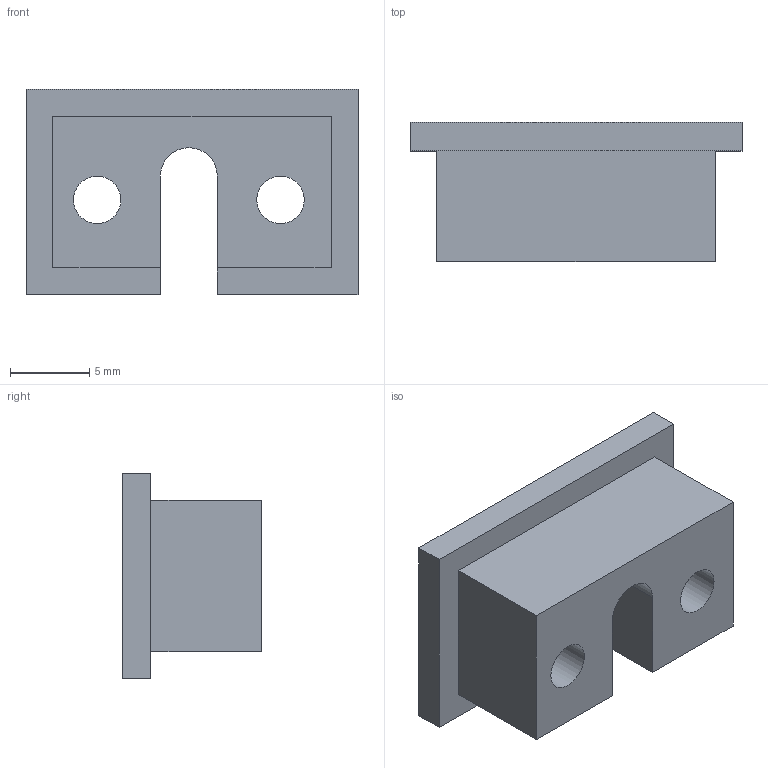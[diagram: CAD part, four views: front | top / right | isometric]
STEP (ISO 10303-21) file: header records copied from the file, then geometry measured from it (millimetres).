
FILE_DESCRIPTION(('Open CASCADE Model'),'2;1');
FILE_NAME('rear-cable-plug','2026-10-21T18:12:46',('Author'),( 'Open CASCADE'),'Open CASCADE STEP processor 8.0','build123d', 'Unknown');
FILE_SCHEMA(('AUTOMOTIVE_DESIGN { 1 0 10303 214 1 1 1 1 }'));
Length unit declared in the file: millimetre
Products named in the file (2): rear-cable-plug
Assembly tree (1 placements, depth 2):
  rear-cable-plug
    rear-cable-plug
Bounding box: 21 x 8.8 x 13 mm (x, y, z)
Volume: 1310.2 mm3; surface area: 1248.9 mm2
Topology: 1 solids, 1 shells, 18 faces, 48 edges, 32 vertices
Faces by surface type: plane 15, cylinder 3
Full cylindrical faces by diameter (mm): 3 x2
Entity records: 1217 total; most frequent: CARTESIAN_POINT 197, DIRECTION 189, LINE 131, VECTOR 131, ORIENTED_EDGE 96, PCURVE 96, DEFINITIONAL_REPRESENTATION 96, EDGE_CURVE 48
